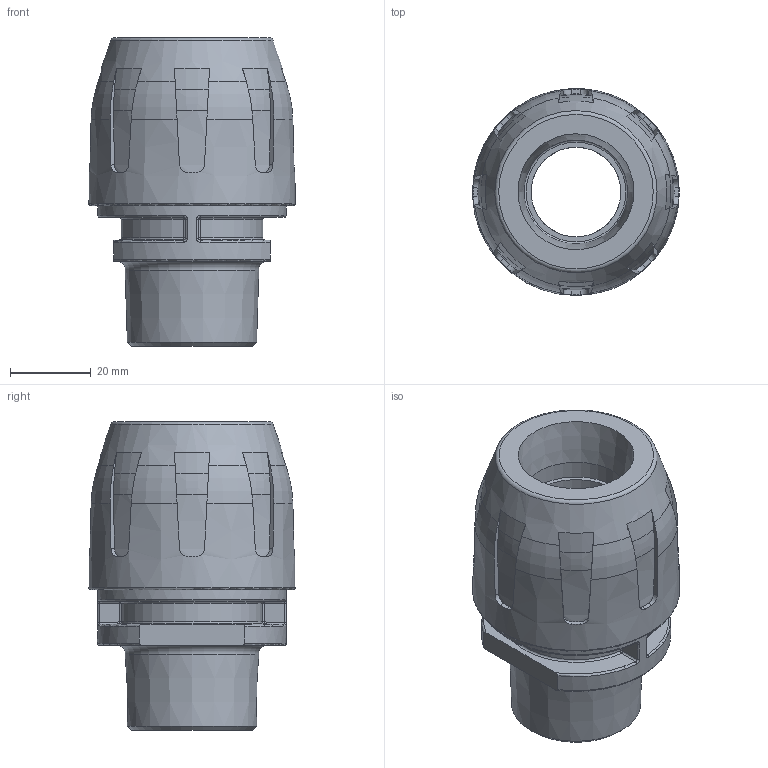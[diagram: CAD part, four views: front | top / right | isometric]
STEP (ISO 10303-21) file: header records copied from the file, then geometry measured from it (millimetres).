
FILE_DESCRIPTION( ( 'STEP AP214' ), '1' );
FILE_NAME( ' ', ' ', ( ' ' ), ( ' ' ), 'PSStep 11.0', 'VISI 17.0', ' ' );
FILE_SCHEMA( ( 'AUTOMOTIVE_DESIGN { 1 0 10303 214 1 1 1 1 }' ) );
Length unit declared in the file: millimetre
Products named in the file (2): 1; 2
Bounding box: 51.17 x 51.16 x 76.37 mm (x, y, z)
Volume: 74976.9 mm3; surface area: 29215 mm2
Topology: 2 solids, 2 shells, 265 faces, 716 edges, 463 vertices
Faces by surface type: plane 114, cone 54, cylinder 35, bspline 32, torus 22, sphere 8
Full cylindrical faces by diameter (mm): 25.7 x2, 37.774 x1, 38.2 x1, 39.2 x1, 41.7 x1, 41.847 x1, 46.758 x1, 48.6 x1
Entity records: 12769 total; most frequent: CARTESIAN_POINT 4513, ORIENTED_EDGE 1340, DIRECTION 1192, EDGE_CURVE 670, AXIS2_PLACEMENT_3D 521, VERTEX_POINT 446, EDGE_LOOP 306, FACE_OUTER_BOUND 284
